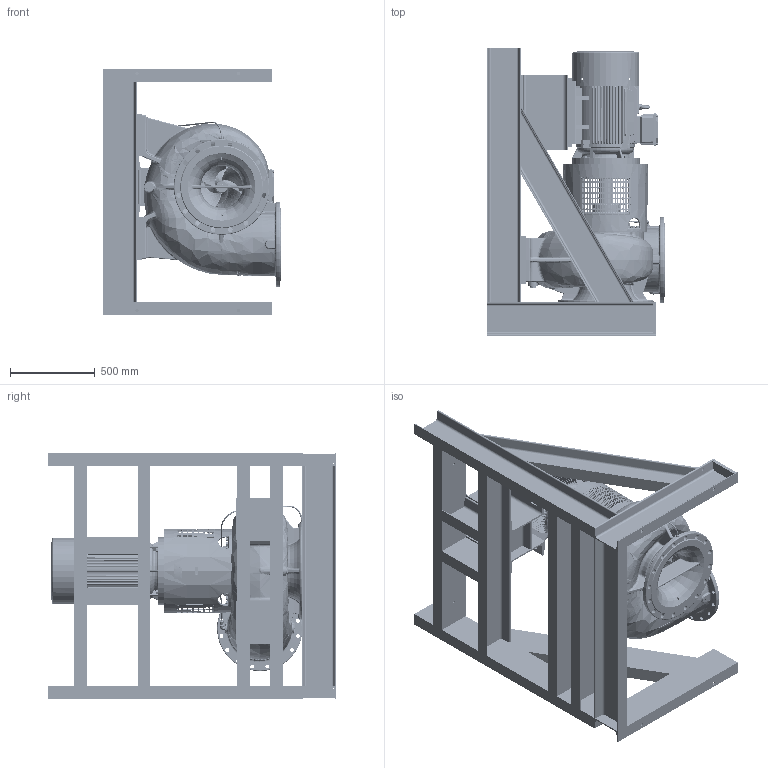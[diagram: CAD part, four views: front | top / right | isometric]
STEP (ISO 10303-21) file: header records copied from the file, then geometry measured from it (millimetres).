
FILE_DESCRIPTION((''),'2;1');
FILE_NAME('NSLV350-310_A02_FO_ASM','2024-05-29T',('maxz'),(''),'PRO/ENGINEER BY PARAMETRIC TECHNOLOGY CORPORATION, 2017170','PRO/ENGINEER BY PARAMETRIC TECHNOLOGY CORPORATION, 2017170','');
FILE_SCHEMA(('CONFIG_CONTROL_DESIGN'));
Products named in the file (60): 2XXX-L-1; 110198; 117305; 700952; 506841; 107299; 725990_1; 725990_2; 725990_ASM; 704276; 704371; 704268; 507131; 697942_ASM; 552610; 107300; 107301; 107292; 107294; 703336; 710912; 598470; 700278; 506704; 704020; 703358; 595950; 598520; 704067; 707566; 700324; 704390; 704189; 506954; 712398; 718563; 714915; 708438; 708437; 704188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
Assembly tree (111 placements, depth 5):
  NSLV350-310_A02_FO_ASM
    2XXX-L-1
    697940_ASM
      697942_ASM
        110198
        117305
        700952  x2
        506841
        107299
        725990_ASM
          725990_1
          725990_2
        704276
        704371  x4
        704268
        507131
      552610
      107300
      107301
      107292
      107294
      703336  x4
      710912  x6
      598470
      700278
      506704
      704020
      703358
      595950
      598520
      704067  x8
      707566  x8
      700324  x4
      704390
      704189
      506954
      712398
      718563  x2
      714915  x2
      708438
      708437
      704188
      506953
      700923
      705173
    673343_AF1_ASM
      110534
      513770
      110848
      704016  x8
      700323  x4
      703239
      110557_AF3
      110557_AF4
      706717  x8
      101422
      704041  x2
      704279  x4
      704048_AF2
    852462
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Bounding box: 1050 x 1700 x 1450 mm (x, y, z)
Volume: 172700622 mm3; surface area: 22408231.9 mm2
Topology: 138 solids, 249 shells, 9278 faces, 24697 edges, 15924 vertices
Faces by surface type: plane 3571, cylinder 1919, bspline 1722, cone 914, extrusion 523, torus 492, sphere 129, revolution 8
Entity records: 429365 total; most frequent: CARTESIAN_POINT 233142, ORIENTED_EDGE 44120, DIRECTION 33494, EDGE_CURVE 22249, VERTEX_POINT 14461, AXIS2_PLACEMENT_3D 11502, VECTOR 10482, LINE 9959
